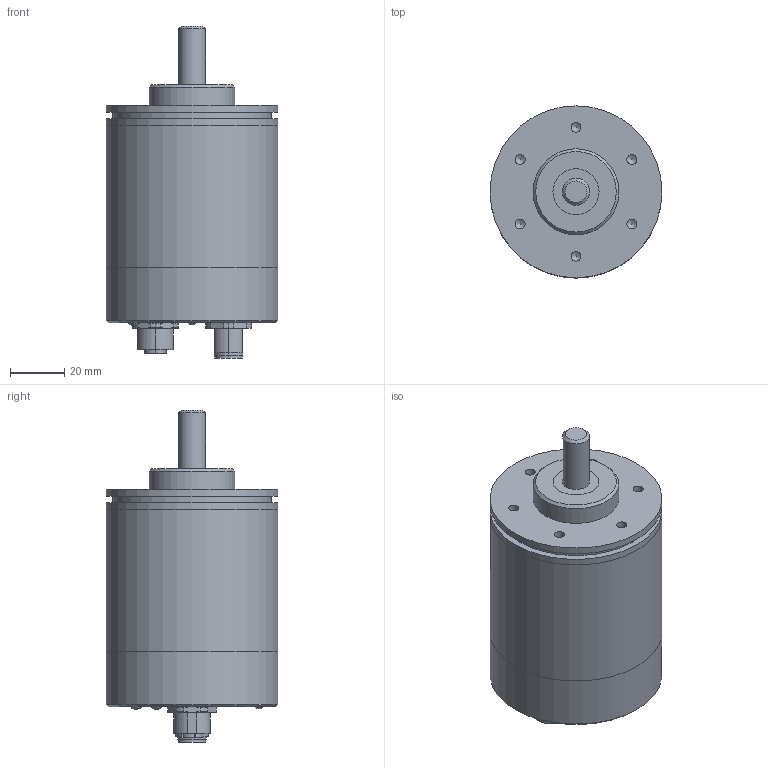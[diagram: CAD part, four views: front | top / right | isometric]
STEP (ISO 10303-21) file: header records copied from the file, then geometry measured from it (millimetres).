
FILE_DESCRIPTION(/* description */ ('Alibre Inc.'),/* implementation_level */ '2;1');
FILE_NAME(/* name */ 'export0',/* time_stamp */ '2010-05-25T09:16:47-04:00',/* author */ (''),/* organization */ (''),/* preprocessor_version */ 'ST-DEVELOPER v10',/* originating_system */ 'Alibre',/* authorisation */ '');
FILE_SCHEMA (('CONFIG_CONTROL_DESIGN'));
Length unit declared in the file: centimetre
Products named in the file (12): ID_1; ID_2; ID_3; ID_4; ID_5; ID_6; ID_7; ID_8; ID_9; ID_10
Bounding box: 63.5 x 63.5 x 122.63 mm (x, y, z)
Volume: 261320 mm3; surface area: 47528.4 mm2
Topology: 11 solids, 11 shells, 285 faces, 619 edges, 397 vertices
Faces by surface type: plane 119, cylinder 113, cone 42, bspline 4, sphere 4, torus 3
Full cylindrical faces by diameter (mm): 2.92 x2, 3 x20, 3.65 x6, 3.96 x4, 10 x3, 11.5 x2, 17 x2, 24 x1, 26 x2, 31.75 x1, 58.674 x1, 58.72 x2, 63.5 x4
Entity records: 8431 total; most frequent: CARTESIAN_POINT 1380, DIRECTION 1237, ORIENTED_EDGE 1052, AXIS2_PLACEMENT_3D 573, EDGE_CURVE 526, FACE_BOUND 400, EDGE_LOOP 394, VERTEX_POINT 380
